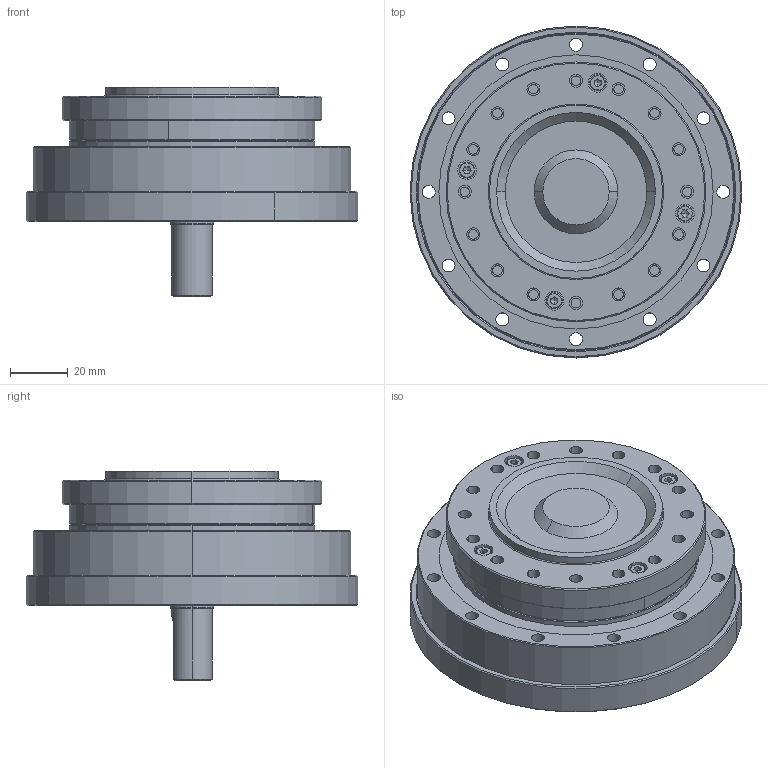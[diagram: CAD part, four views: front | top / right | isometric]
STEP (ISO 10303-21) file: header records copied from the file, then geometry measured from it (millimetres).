
FILE_DESCRIPTION (( 'STEP AP203' ), '1' );
FILE_NAME ('BHS-25-XXX-U-¢ô.STEP', '2019-01-15T05:36:51', ( 'User' ), ( 'China' ), 'SwSTEP 2.0', 'SolidWorks 2015', '' );
FILE_SCHEMA (( 'CONFIG_CONTROL_DESIGN' ));
Length unit declared in the file: millimetre
Products named in the file (1): BHS-25-XXX-U-ｌ
Bounding box: 115 x 115 x 72.5 mm (x, y, z)
Surface area: 53915.9 mm2 (no closed solid volume)
Topology: 0 solids, 16 shells, 289 faces, 866 edges, 558 vertices
Faces by surface type: cylinder 130, plane 88, cone 59, torus 12
Entity records: 9850 total; most frequent: DIRECTION 1884, CARTESIAN_POINT 1736, ORIENTED_EDGE 1396, EDGE_CURVE 850, AXIS2_PLACEMENT_3D 748, VERTEX_POINT 558, CIRCLE 458, VECTOR 388
